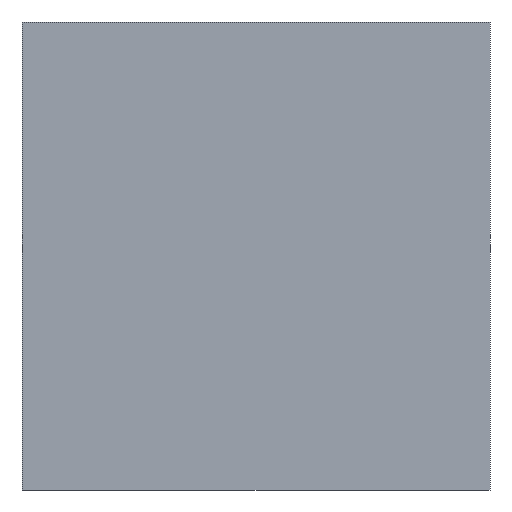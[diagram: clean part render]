
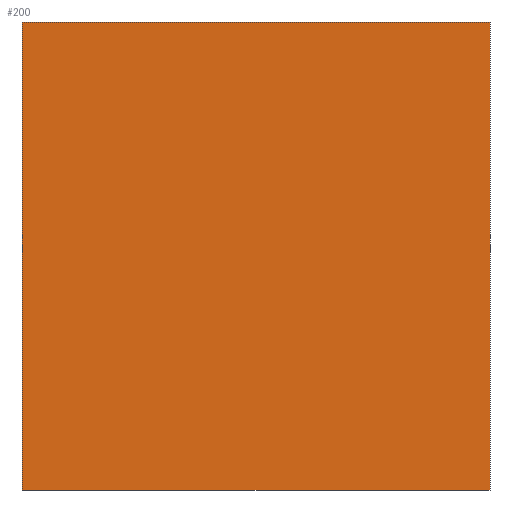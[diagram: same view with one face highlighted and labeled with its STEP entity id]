
A CAD part, left-side view. The second image highlights one B-rep face of the part: STEP entity #200.
In plain terms, the highlighted planar face has unit normal (-1, 0, 0).
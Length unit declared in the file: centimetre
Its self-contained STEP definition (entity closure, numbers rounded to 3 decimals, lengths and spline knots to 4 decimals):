
#24 = LINE ( 'NONE', #541, #397 ) ;
#38 = FACE_OUTER_BOUND ( 'NONE', #108, .T. ) ;
#44 = ORIENTED_EDGE ( 'NONE', *, *, #461, .F. ) ;
#84 = CARTESIAN_POINT ( 'NONE',  ( 0., 1000., 1000. ) ) ;
#90 = VERTEX_POINT ( 'NONE', #84 ) ;
#108 = EDGE_LOOP ( 'NONE', ( #179, #44, #627, #164 ) ) ;
#115 = VECTOR ( 'NONE', #632, 100. ) ;
#150 = EDGE_CURVE ( 'NONE', #90, #443, #24, .T. ) ;
#164 = ORIENTED_EDGE ( 'NONE', *, *, #150, .T. ) ;
#179 = ORIENTED_EDGE ( 'NONE', *, *, #324, .T. ) ;
#200 = ADVANCED_FACE ( 'NONE', ( #38 ), #406, .F. ) ;
#209 = CARTESIAN_POINT ( 'NONE',  ( 0., 1000., 1000. ) ) ;
#216 = VECTOR ( 'NONE', #411, 100. ) ;
#226 = VERTEX_POINT ( 'NONE', #506 ) ;
#234 = LINE ( 'NONE', #531, #659 ) ;
#235 = DIRECTION ( 'NONE',  ( 0., 0., -1. ) ) ;
#262 = AXIS2_PLACEMENT_3D ( 'NONE', #403, #607, #396 ) ;
#324 = EDGE_CURVE ( 'NONE', #443, #226, #416, .T. ) ;
#342 = DIRECTION ( 'NONE',  ( 0., 0., -1. ) ) ;
#396 = DIRECTION ( 'NONE',  ( 0., 0., -1. ) ) ;
#397 = VECTOR ( 'NONE', #235, 100. ) ;
#403 = CARTESIAN_POINT ( 'NONE',  ( 0., 1000., 1000. ) ) ;
#406 = PLANE ( 'NONE',  #262 ) ;
#411 = DIRECTION ( 'NONE',  ( 0., -1., 0. ) ) ;
#416 = LINE ( 'NONE', #519, #115 ) ;
#421 = VERTEX_POINT ( 'NONE', #628 ) ;
#441 = EDGE_CURVE ( 'NONE', #90, #421, #673, .T. ) ;
#443 = VERTEX_POINT ( 'NONE', #563 ) ;
#461 = EDGE_CURVE ( 'NONE', #421, #226, #234, .T. ) ;
#506 = CARTESIAN_POINT ( 'NONE',  ( 0., 0., 0. ) ) ;
#519 = CARTESIAN_POINT ( 'NONE',  ( 0., 1000., 0. ) ) ;
#531 = CARTESIAN_POINT ( 'NONE',  ( 0., 0., 1000. ) ) ;
#541 = CARTESIAN_POINT ( 'NONE',  ( 0., 1000., 1000. ) ) ;
#563 = CARTESIAN_POINT ( 'NONE',  ( 0., 1000., 0. ) ) ;
#607 = DIRECTION ( 'NONE',  ( 1., 0., 0. ) ) ;
#627 = ORIENTED_EDGE ( 'NONE', *, *, #441, .F. ) ;
#628 = CARTESIAN_POINT ( 'NONE',  ( 0., 0., 1000. ) ) ;
#632 = DIRECTION ( 'NONE',  ( 0., -1., 0. ) ) ;
#659 = VECTOR ( 'NONE', #342, 100. ) ;
#673 = LINE ( 'NONE', #209, #216 ) ;
